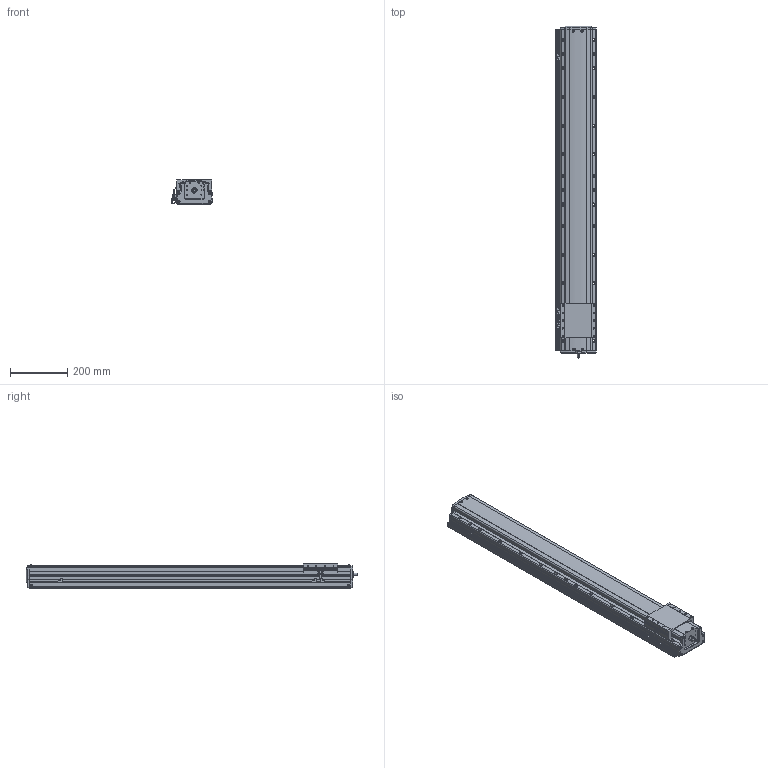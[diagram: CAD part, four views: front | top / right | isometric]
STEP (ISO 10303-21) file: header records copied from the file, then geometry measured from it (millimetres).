
FILE_DESCRIPTION(('STEP AP214'),'1');
FILE_NAME('Z:/Web/3D/PSA125/STP/PSA125-900 (3D)/PSA125ㅁㅁ-900+3SL.stp','2014-06-23T04:49:12',(' '),(' '),'Spatial InterOp 3D',' ',' ');
FILE_SCHEMA(('automotive_design'));
Length unit declared in the file: millimetre
Products named in the file (36): 스크루 : Round - M4.0 x 10.0; RRCV-PA120; SLIDE; BASE; FRCV-PA120-1(기준 뿔 제거); RR1500; 스크루 : Round - M4.0 x 6.0; 너트 : Square - M10.0 x 220.7419; EE-SX674; SBK-SX674-352; 스크루 : Round - M3.0 x 6.0; M3.0 x 6.0; SRL-16x17-380L; SGD-PA95; 스크루 : Round - M3.0 x 8.0
Bounding box: 141 x 1158.1 x 86 mm (x, y, z)
Volume: 9583367.3 mm3; surface area: 871766.4 mm2
Topology: 36 solids, 36 shells, 2447 faces, 6557 edges, 4202 vertices
Faces by surface type: plane 1375, cylinder 720, cone 244, sphere 52, bspline 31, torus 25
Entity records: 98049 total; most frequent: CARTESIAN_POINT 16034, DIRECTION 13031, ORIENTED_EDGE 12830, EDGE_CURVE 6415, AXIS2_PLACEMENT_3D 4356, LINE 4319, VECTOR 4319, VERTEX_POINT 4202
